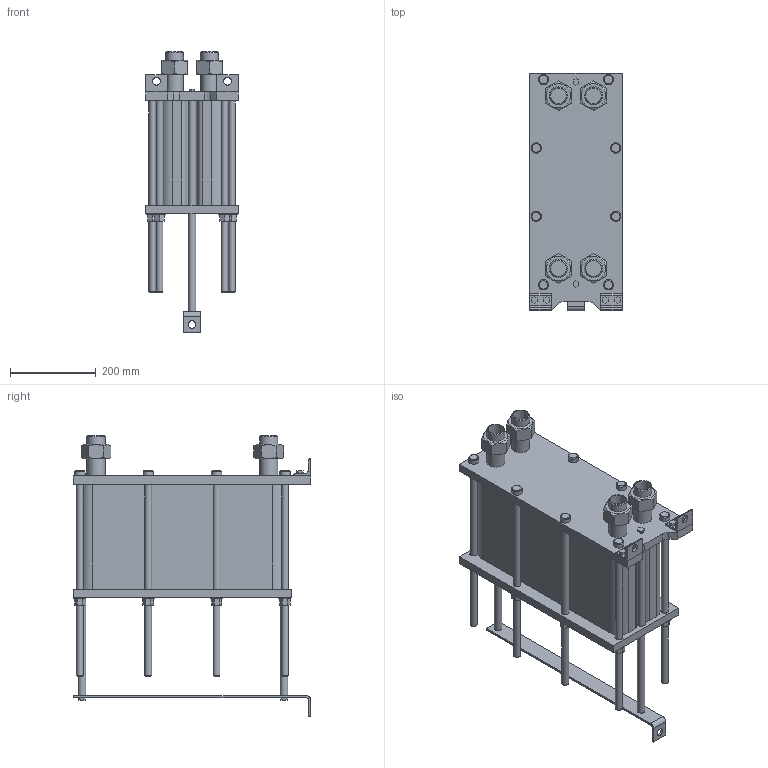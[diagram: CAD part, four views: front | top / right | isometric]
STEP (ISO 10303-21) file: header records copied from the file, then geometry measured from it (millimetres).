
FILE_DESCRIPTION(/* description */ (''),/* implementation_level */ '2;1');
FILE_NAME(/* name */ 'C:\Users\zhuro\Desktop\ENCO\TO\ЭН-004\ЭН-0,5-004-79-1.stp',/* time_stamp */ '2022-06-06T10:50:05+03:00',/* author */ ('zhuro'),/* organization */ (''),/* preprocessor_version */ 'ST-DEVELOPER v18.1',/* originating_system */ 'Autodesk Inventor 2022',/* authorisation */ '');
FILE_SCHEMA (('AUTOMOTIVE_DESIGN { 1 0 10303 214 3 1 1 }'));
Length unit declared in the file: millimetre
Products named in the file (1): ЭН-0,5-004-79-1
Bounding box: 216 x 555 x 656.2 mm (x, y, z)
Volume: 24047372 mm3; surface area: 1489066.9 mm2
Topology: 40 solids, 40 shells, 403 faces, 865 edges, 574 vertices
Faces by surface type: plane 272, cylinder 103, cone 28
Full cylindrical faces by diameter (mm): 10 x4, 16 x16, 18 x29, 20 x2, 24 x8, 28 x8, 36.3 x5, 42.3 x9
Entity records: 11137 total; most frequent: CARTESIAN_POINT 1939, DIRECTION 1879, ORIENTED_EDGE 1730, EDGE_CURVE 865, AXIS2_PLACEMENT_3D 658, VERTEX_POINT 574, LINE 563, VECTOR 563
